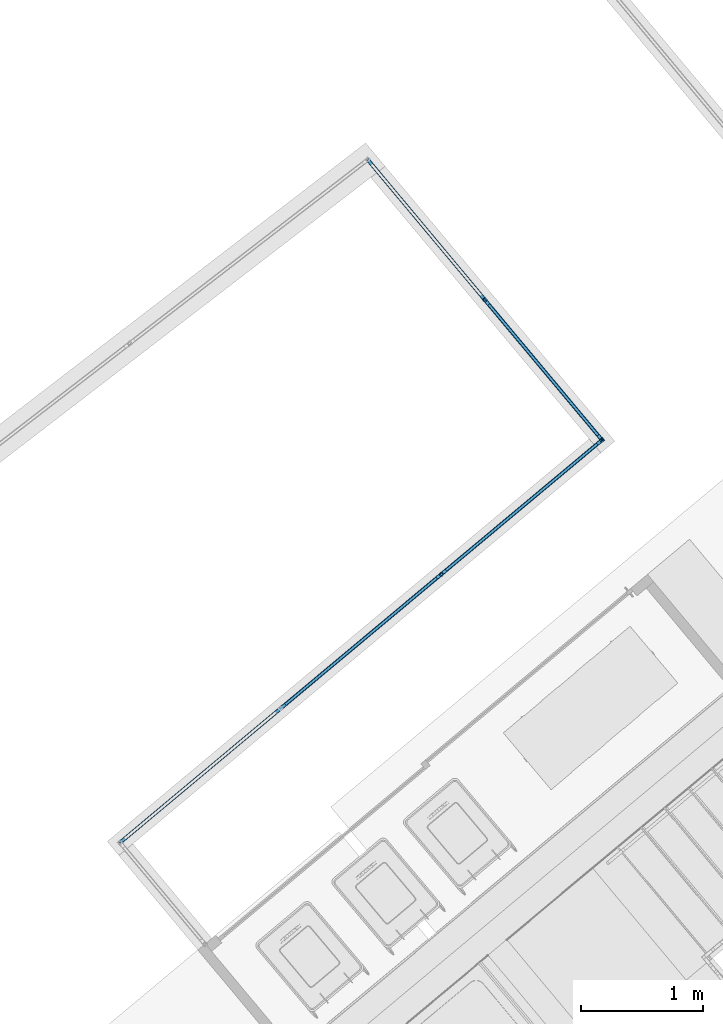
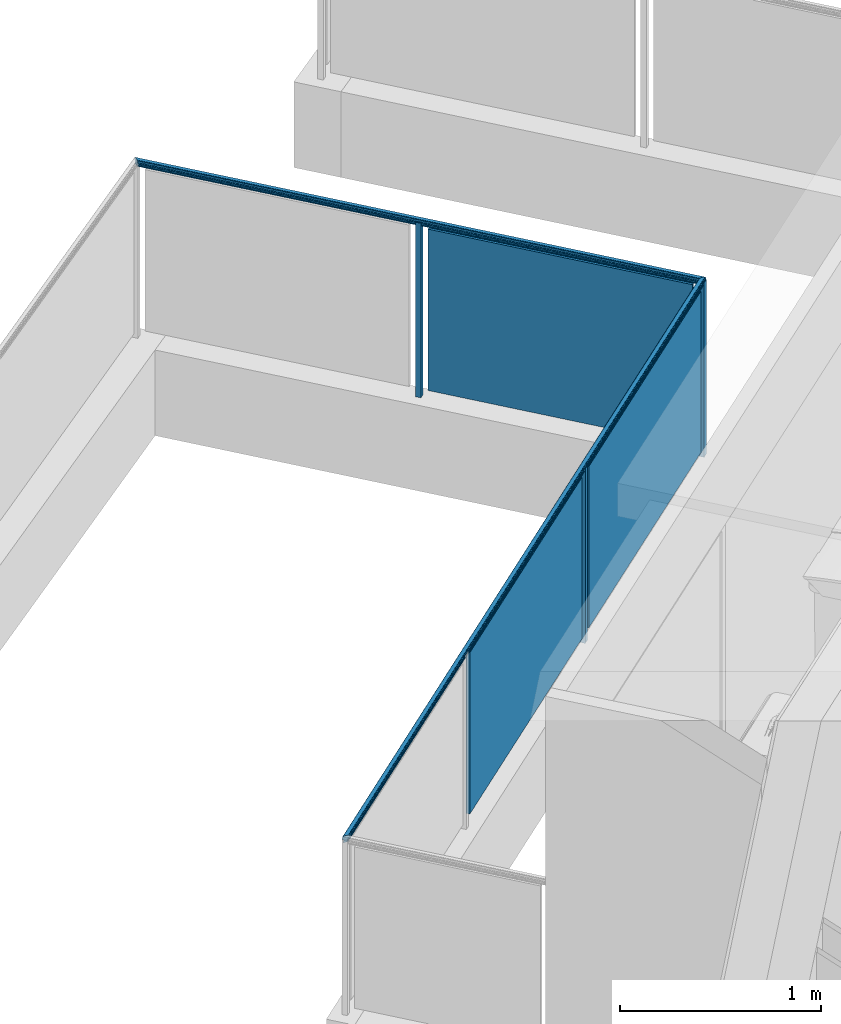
# One storey, part 36 of 67: 8 building element parts, 1 element without a shape of its own.
"""IFC4 building model written with IfcOpenShell, lengths in metres."""

from ifc_helpers import new_model, entity, si_unit, converted_unit, derived_unit, direction, frame, origin_with_axes, place, context, subcontext, project, spatial, polygons, material, type_object, element, aggregate, save


model = new_model("IFC4")

# Units and contexts
model_context = context("Model", 3, precision=1e-05, world=origin_with_axes(), true_north=direction((0.0, 1.0)))
body_context = subcontext(model_context, "Body", "Model", "MODEL_VIEW")
ifc_project = project(units=[si_unit("LENGTHUNIT", "METRE"), si_unit("AREAUNIT", "SQUARE_METRE"), si_unit("VOLUMEUNIT", "CUBIC_METRE"), converted_unit("PLANEANGLEUNIT", "DEGREE", entity("IfcPlaneAngleMeasure", 0.0174532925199), si_unit("PLANEANGLEUNIT", "RADIAN"), dimensions=[0, 0, 0, 0, 0, 0, 0]), converted_unit("TIMEUNIT", "Year", entity("IfcTimeMeasure", 31556926.0), si_unit("TIMEUNIT", "SECOND"), dimensions=[0, 0, 1, 0, 0, 0, 0]), si_unit("MASSUNIT", "GRAM", prefix="KILO"), si_unit("THERMODYNAMICTEMPERATUREUNIT", "DEGREE_CELSIUS"), si_unit("LUMINOUSINTENSITYUNIT", "LUMEN"), si_unit("ENERGYUNIT", "JOULE", prefix="MEGA"), derived_unit("THERMALCONDUCTANCEUNIT", [(si_unit("POWERUNIT", "WATT"), 1), (si_unit("LENGTHUNIT", "METRE"), -1), (si_unit("THERMODYNAMICTEMPERATUREUNIT", "KELVIN"), -1)]), derived_unit("SPECIFICHEATCAPACITYUNIT", [(si_unit("ENERGYUNIT", "JOULE"), 1), (si_unit("MASSUNIT", "GRAM", prefix="KILO"), -1), (si_unit("THERMODYNAMICTEMPERATUREUNIT", "KELVIN"), -1)]), derived_unit("MASSDENSITYUNIT", [(si_unit("MASSUNIT", "GRAM", prefix="KILO"), 1), (si_unit("VOLUMEUNIT", "CUBIC_METRE"), -1)])], contexts=[model_context])

# Site, building, storey
site_placement = place(None, frame((-0.00153261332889, -0.00661245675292, 0.0), z_axis=(0.0, 0.0, 1.0), x_axis=(1.0, 0.0, 0.0)))
site = spatial("IfcSite", under=ifc_project, at=site_placement, Name="Site", CompositionType="ELEMENT")
building_placement = place(site_placement, origin_with_axes())
building = spatial("IfcBuilding", under=site, at=building_placement, Name="Building", CompositionType="ELEMENT")
storey_placement = place(building_placement, frame((0.0, 0.0, -0.22), z_axis=(0.0, 0.0, 1.0), x_axis=(1.0, 0.0, 0.0)))
storey = spatial("IfcBuildingStorey", under=building, at=storey_placement, Name="EG", CompositionType="ELEMENT", Elevation=-0.22)

# Railing, building element parts
railing_type = type_object("IfcRailingType", Name="Geländerart", PredefinedType="NOTDEFINED")
railing_placement = place(storey_placement, frame((-6.36726458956, 22.4448248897, 0.523948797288), z_axis=(0.0, 0.0, 1.0), x_axis=(1.0, 0.0, 0.0)))
railing = element("IfcRailing", 1, at=railing_placement, inside=storey, type_object=railing_type, Name="Geländer - 001", PredefinedType="NOTDEFINED")
ifc_material_1 = material(Name="Aluminium")
building_element_part_1_placement = place(railing_placement, origin_with_axes())
building_element_part_1 = element("IfcBuildingElementPart", 2, at=building_element_part_1_placement, material=ifc_material_1, Name="Aluminium", PredefinedType="NOTDEFINED", context=body_context, shape_type="Tessellation", body=[
    polygons([(3.3393933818, 4.18604234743, 0.0), (3.32016217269, 4.20906756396, 0.0), (3.32016217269, 4.20906756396, 1.06), (3.3393933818, 4.18604234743, 1.06), (3.31636816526, 4.16681113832, 0.0), (3.29713695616, 4.18983635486, 0.0), (3.33235064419, 4.186674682, 0.0), (3.31952983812, 4.20202482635, 0.0), (3.30417969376, 4.18920402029, 0.0), (3.31700049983, 4.17385387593, 0.0), (3.29713695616, 4.18983635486, 1.06), (3.31636816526, 4.16681113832, 1.06), (3.33235064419, 4.186674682, 1.06), (3.31700049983, 4.17385387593, 1.06), (3.30417969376, 4.18920402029, 1.06), (3.31952983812, 4.20202482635, 1.06)], [[[1, 2, 3, 4]], [[1, 5, 6, 2], [7, 8, 9, 10]], [[2, 6, 11, 3]], [[4, 3, 11, 12], [13, 14, 15, 16]], [[5, 1, 4, 12]], [[6, 5, 12, 11]], [[8, 7, 13, 16]], [[9, 8, 16, 15]], [[10, 9, 15, 14]], [[7, 10, 14, 13]]], closed=True),
])
building_element_part_2_placement = place(railing_placement, origin_with_axes())
building_element_part_2 = element("IfcBuildingElementPart", 3, at=building_element_part_2_placement, material=ifc_material_1, Name="Aluminium", PredefinedType="NOTDEFINED", context=body_context, shape_type="Tessellation", body=[
    polygons([(-0.62523880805, 0.881025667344, 1.07636363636), (-0.624907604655, 0.880995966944, 1.07634109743), (3.33287390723, 4.18662932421, 1.07634109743), (3.33254270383, 4.18665902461, 1.07636363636), (-0.62523880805, 0.881025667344, 1.07818181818), (-0.62532585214, 0.881033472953, 1.07820551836), (-0.629970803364, 0.881450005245, 1.0792391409), (-0.634682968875, 0.881872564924, 1.07983921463), (-0.639426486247, 0.882297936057, 1.08000117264), (-0.639516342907, 0.882305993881, 1.08), (-0.639606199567, 0.882314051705, 1.08000117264), (-0.64434971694, 0.882739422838, 1.07983921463), (-0.649061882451, 0.883161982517, 1.0792391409), (-0.653706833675, 0.883578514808, 1.07820551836), (-0.653793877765, 0.883586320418, 1.07818181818), (-0.653793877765, 0.883586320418, 1.07636363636), (-0.65412508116, 0.883616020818, 1.07634109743), (-0.655351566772, 0.883726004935, 1.0761115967), (-0.656521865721, 0.883830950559, 1.07565956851), (-0.657600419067, 0.883927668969, 1.07499874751), (-0.658554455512, 0.884013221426, 1.0741492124), (-0.659354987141, 0.88408500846, 1.07313677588), (-0.659977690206, 0.88414084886, 1.07199220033), (-0.660403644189, 0.884179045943, 1.07075026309), (-0.660619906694, 0.884198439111, 1.06944869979), (-0.660619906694, 0.884198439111, 1.06812705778), (-0.660403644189, 0.884179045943, 1.06682549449), (-0.659977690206, 0.88414084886, 1.06558355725), (-0.659354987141, 0.88408500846, 1.06443898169), (-0.658554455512, 0.884013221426, 1.06342654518), (-0.657600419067, 0.883927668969, 1.06257701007), (-0.656521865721, 0.883830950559, 1.06191618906), (-0.655351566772, 0.883726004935, 1.06146416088), (-0.65412508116, 0.883616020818, 1.06123466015), (-0.653793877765, 0.883586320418, 1.06121212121), (-0.653793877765, 0.883586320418, 1.05818181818), (-0.653569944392, 0.883566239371, 1.05810011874), (-0.652526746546, 0.883472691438, 1.05758389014), (-0.651583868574, 0.883388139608, 1.05688326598), (-0.650769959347, 0.883315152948, 1.05601953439), (-0.650109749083, 0.88325594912, 1.05501893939), (-0.649623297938, 0.883212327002, 1.05391188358), (-0.649325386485, 0.883185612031, 1.05273200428), (-0.649225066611, 0.883176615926, 1.05151515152), (-0.649325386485, 0.883185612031, 1.05029829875), (-0.649623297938, 0.883212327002, 1.04911841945), (-0.650109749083, 0.88325594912, 1.04801136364), (-0.650769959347, 0.883315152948, 1.04701076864), (-0.651583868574, 0.883388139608, 1.04614703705), (-0.652526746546, 0.883472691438, 1.04544641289), (-0.653569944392, 0.883566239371, 1.04493018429), (-0.653793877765, 0.883586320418, 1.04484848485), (-0.653793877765, 0.883586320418, 1.04), (-0.62523880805, 0.881025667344, 1.04), (-0.62523880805, 0.881025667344, 1.04484848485), (-0.625462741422, 0.881045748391, 1.04493018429), (-0.626505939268, 0.881139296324, 1.04544641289), (-0.62744881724, 0.881223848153, 1.04614703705), (-0.628262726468, 0.881296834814, 1.04701076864), (-0.628922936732, 0.881356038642, 1.04801136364), (-0.629409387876, 0.88139966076, 1.04911841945), (-0.62970729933, 0.881426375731, 1.05029829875), (-0.629807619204, 0.881435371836, 1.05151515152), (-0.62970729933, 0.881426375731, 1.05273200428), (-0.629409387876, 0.88139966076, 1.05391188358), (-0.628922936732, 0.881356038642, 1.05501893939), (-0.628262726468, 0.881296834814, 1.05601953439), (-0.62744881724, 0.881223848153, 1.05688326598), (-0.626505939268, 0.881139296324, 1.05758389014), (-0.625462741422, 0.881045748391, 1.05810011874), (-0.62523880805, 0.881025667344, 1.05818181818), (-0.62523880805, 0.881025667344, 1.06121212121), (-0.624907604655, 0.880995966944, 1.06123466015), (-0.623681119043, 0.880885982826, 1.06146416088), (-0.622510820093, 0.880781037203, 1.06191618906), (-0.621432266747, 0.880684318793, 1.06257701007), (-0.620478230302, 0.880598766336, 1.06342654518), (-0.619677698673, 0.880526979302, 1.06443898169), (-0.619054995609, 0.880471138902, 1.06558355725), (-0.618629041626, 0.880432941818, 1.06682549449), (-0.618412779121, 0.880413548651, 1.06812705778), (-0.618412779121, 0.880413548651, 1.06944869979), (-0.618629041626, 0.880432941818, 1.07075026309), (-0.619054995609, 0.880471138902, 1.07199220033), (-0.619677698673, 0.880526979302, 1.07313677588), (-0.620478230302, 0.880598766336, 1.0741492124), (-0.621432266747, 0.880684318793, 1.07499874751), (-0.622510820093, 0.880781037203, 1.07565956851), (-0.623681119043, 0.880885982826, 1.0761115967), (3.33410039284, 4.18651934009, 1.0761115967), (3.33527069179, 4.18641439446, 1.07565956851), (3.33634924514, 4.18631767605, 1.07499874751), (3.33730328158, 4.1862321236, 1.0741492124), (3.33810381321, 4.18616033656, 1.07313677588), (3.33872651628, 4.18610449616, 1.07199220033), (3.33915247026, 4.18606629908, 1.07075026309), (3.33936873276, 4.18604690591, 1.06944869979), (3.33936873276, 4.18604690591, 1.06812705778), (3.33915247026, 4.18606629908, 1.06682549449), (3.33872651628, 4.18610449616, 1.06558355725), (3.33810381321, 4.18616033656, 1.06443898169), (3.33730328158, 4.1862321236, 1.06342654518), (3.33634924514, 4.18631767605, 1.06257701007), (3.33527069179, 4.18641439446, 1.06191618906), (3.33410039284, 4.18651934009, 1.06146416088), (3.33287390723, 4.18662932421, 1.06123466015), (3.33254270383, 4.18665902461, 1.06121212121), (3.33254270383, 4.18665902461, 1.05818181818), (3.33231877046, 4.18667910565, 1.05810011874), (3.33127557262, 4.18677265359, 1.05758389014), (3.33033269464, 4.18685720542, 1.05688326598), (3.32951878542, 4.18693019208, 1.05601953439), (3.32885857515, 4.1869893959, 1.05501893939), (3.32837212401, 4.18703301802, 1.05391188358), (3.32807421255, 4.18705973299, 1.05273200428), (3.32797389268, 4.1870687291, 1.05151515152), (3.32807421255, 4.18705973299, 1.05029829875), (3.32837212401, 4.18703301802, 1.04911841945), (3.32885857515, 4.1869893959, 1.04801136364), (3.32951878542, 4.18693019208, 1.04701076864), (3.33033269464, 4.18685720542, 1.04614703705), (3.33127557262, 4.18677265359, 1.04544641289), (3.33231877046, 4.18667910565, 1.04493018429), (3.33254270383, 4.18665902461, 1.04484848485), (3.33254270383, 4.18665902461, 1.04), (3.30398763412, 4.18921967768, 1.04), (3.30398763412, 4.18921967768, 1.04484848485), (3.30421156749, 4.18919959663, 1.04493018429), (3.30525476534, 4.1891060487, 1.04544641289), (3.30619764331, 4.18902149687, 1.04614703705), (3.30701155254, 4.18894851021, 1.04701076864), (3.3076717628, 4.18888930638, 1.04801136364), (3.30815821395, 4.18884568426, 1.04911841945), (3.3084561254, 4.18881896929, 1.05029829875), (3.30855644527, 4.18880997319, 1.05151515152), (3.3084561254, 4.18881896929, 1.05273200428), (3.30815821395, 4.18884568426, 1.05391188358), (3.3076717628, 4.18888930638, 1.05501893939), (3.30701155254, 4.18894851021, 1.05601953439), (3.30619764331, 4.18902149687, 1.05688326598), (3.30525476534, 4.1891060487, 1.05758389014), (3.30421156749, 4.18919959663, 1.05810011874), (3.30398763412, 4.18921967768, 1.05818181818), (3.30398763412, 4.18921967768, 1.06121212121), (3.30365643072, 4.18924937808, 1.06123466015), (3.30242994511, 4.1893593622, 1.06146416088), (3.30125964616, 4.18946430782, 1.06191618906), (3.30018109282, 4.18956102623, 1.06257701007), (3.29922705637, 4.18964657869, 1.06342654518), (3.29842652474, 4.18971836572, 1.06443898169), (3.29780382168, 4.18977420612, 1.06558355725), (3.2973778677, 4.1898124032, 1.06682549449), (3.29716160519, 4.18983179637, 1.06812705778), (3.29716160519, 4.18983179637, 1.06944869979), (3.2973778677, 4.1898124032, 1.07075026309), (3.29780382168, 4.18977420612, 1.07199220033), (3.29842652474, 4.18971836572, 1.07313677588), (3.29922705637, 4.18964657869, 1.0741492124), (3.30018109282, 4.18956102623, 1.07499874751), (3.30125964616, 4.18946430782, 1.07565956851), (3.30242994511, 4.1893593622, 1.0761115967), (3.30365643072, 4.18924937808, 1.07634109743), (3.30398763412, 4.18921967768, 1.07636363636), (3.30398763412, 4.18921967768, 1.07818181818), (3.30407467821, 4.18921187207, 1.07820551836), (3.30871962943, 4.18879533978, 1.0792391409), (3.31343179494, 4.1883727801, 1.07983921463), (3.31817531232, 4.18794740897, 1.08000117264), (3.31826516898, 4.18793935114, 1.08), (3.31835502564, 4.18793129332, 1.08000117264), (3.32309854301, 4.18750592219, 1.07983921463), (3.32781070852, 4.18708336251, 1.0792391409), (3.33245565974, 4.18666683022, 1.07820551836), (3.33254270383, 4.18665902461, 1.07818181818)], [[[1, 2, 3, 4]], [[1, 5, 6, 7, 8, 9, 10, 11, 12, 13, 14, 15, 16, 17, 18, 19, 20, 21, 22, 23, 24, 25, 26, 27, 28, 29, 30, 31, 32, 33, 34, 35, 36, 37, 38, 39, 40, 41, 42, 43, 44, 45, 46, 47, 48, 49, 50, 51, 52, 53, 54, 55, 56, 57, 58, 59, 60, 61, 62, 63, 64, 65, 66, 67, 68, 69, 70, 71, 72, 73, 74, 75, 76, 77, 78, 79, 80, 81, 82, 83, 84, 85, 86, 87, 88, 89, 2]], [[2, 89, 90, 3]], [[4, 3, 90, 91, 92, 93, 94, 95, 96, 97, 98, 99, 100, 101, 102, 103, 104, 105, 106, 107, 108, 109, 110, 111, 112, 113, 114, 115, 116, 117, 118, 119, 120, 121, 122, 123, 124, 125, 126, 127, 128, 129, 130, 131, 132, 133, 134, 135, 136, 137, 138, 139, 140, 141, 142, 143, 144, 145, 146, 147, 148, 149, 150, 151, 152, 153, 154, 155, 156, 157, 158, 159, 160, 161, 162, 163, 164, 165, 166, 167, 168, 169, 170, 171, 172, 173, 174]], [[5, 1, 4, 174]], [[6, 5, 174, 173]], [[7, 6, 173, 172]], [[8, 7, 172, 171]], [[9, 8, 171, 170]], [[10, 9, 170, 169]], [[11, 10, 169, 168]], [[12, 11, 168, 167]], [[13, 12, 167, 166]], [[14, 13, 166, 165]], [[15, 14, 165, 164]], [[16, 15, 164, 163]], [[17, 16, 163, 162]], [[18, 17, 162, 161]], [[19, 18, 161, 160]], [[20, 19, 160, 159]], [[21, 20, 159, 158]], [[22, 21, 158, 157]], [[23, 22, 157, 156]], [[24, 23, 156, 155]], [[25, 24, 155, 154]], [[26, 25, 154, 153]], [[27, 26, 153, 152]], [[28, 27, 152, 151]], [[29, 28, 151, 150]], [[30, 29, 150, 149]], [[31, 30, 149, 148]], [[32, 31, 148, 147]], [[33, 32, 147, 146]], [[34, 33, 146, 145]], [[35, 34, 145, 144]], [[36, 35, 144, 143]], [[37, 36, 143, 142]], [[38, 37, 142, 141]], [[39, 38, 141, 140]], [[40, 39, 140, 139]], [[41, 40, 139, 138]], [[42, 41, 138, 137]], [[43, 42, 137, 136]], [[44, 43, 136, 135]], [[45, 44, 135, 134]], [[46, 45, 134, 133]], [[47, 46, 133, 132]], [[48, 47, 132, 131]], [[49, 48, 131, 130]], [[50, 49, 130, 129]], [[51, 50, 129, 128]], [[52, 51, 128, 127]], [[53, 52, 127, 126]], [[54, 53, 126, 125]], [[55, 54, 125, 124]], [[56, 55, 124, 123]], [[57, 56, 123, 122]], [[58, 57, 122, 121]], [[59, 58, 121, 120]], [[60, 59, 120, 119]], [[61, 60, 119, 118]], [[62, 61, 118, 117]], [[63, 62, 117, 116]], [[64, 63, 116, 115]], [[65, 64, 115, 114]], [[66, 65, 114, 113]], [[67, 66, 113, 112]], [[68, 67, 112, 111]], [[69, 68, 111, 110]], [[70, 69, 110, 109]], [[71, 70, 109, 108]], [[72, 71, 108, 107]], [[73, 72, 107, 106]], [[74, 73, 106, 105]], [[75, 74, 105, 104]], [[76, 75, 104, 103]], [[77, 76, 103, 102]], [[78, 77, 102, 101]], [[79, 78, 101, 100]], [[80, 79, 100, 99]], [[81, 80, 99, 98]], [[82, 81, 98, 97]], [[83, 82, 97, 96]], [[84, 83, 96, 95]], [[85, 84, 95, 94]], [[86, 85, 94, 93]], [[87, 86, 93, 92]], [[88, 87, 92, 91]], [[89, 88, 91, 90]]], closed=True),
])
ifc_material_2 = material(Name="Zaun")
building_element_part_3_placement = place(railing_placement, origin_with_axes())
building_element_part_3 = element("IfcBuildingElementPart", 4, at=building_element_part_3_placement, material=ifc_material_2, Name="Zaun", PredefinedType="NOTDEFINED", context=body_context, shape_type="Tessellation", body=[
    polygons([(1.95421890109, 3.0616846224, 0.05), (0.711709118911, 2.02391086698, 0.05), (0.711709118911, 2.02391086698, 1.03), (1.95421890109, 3.0616846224, 1.03), (0.724529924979, 2.00856072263, 0.05), (1.96703970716, 3.04633447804, 0.05), (0.724529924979, 2.00856072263, 1.03), (1.96703970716, 3.04633447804, 1.03)], [[[1, 2, 3, 4]], [[5, 2, 1, 6]], [[7, 3, 2, 5]], [[4, 3, 7, 8]], [[1, 4, 8, 6]], [[7, 5, 6, 8]]], closed=True),
])
building_element_part_4_placement = place(railing_placement, origin_with_axes())
building_element_part_4 = element("IfcBuildingElementPart", 5, at=building_element_part_4_placement, material=ifc_material_1, Name="Aluminium", PredefinedType="NOTDEFINED", context=body_context, shape_type="Tessellation", body=[
    polygons([(2.02013287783, 3.08416456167, 0.0), (2.00090166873, 3.10718977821, 0.0), (2.00090166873, 3.10718977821, 1.06), (2.02013287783, 3.08416456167, 1.06), (1.9971076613, 3.06493335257, 0.0), (1.9778764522, 3.08795856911, 0.0), (2.01309014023, 3.08479689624, 0.0), (2.00026933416, 3.1001470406, 0.0), (1.9849191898, 3.08732623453, 0.0), (1.99773999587, 3.07197609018, 0.0), (1.9778764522, 3.08795856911, 1.06), (1.9971076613, 3.06493335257, 1.06), (2.01309014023, 3.08479689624, 1.06), (1.99773999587, 3.07197609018, 1.06), (1.9849191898, 3.08732623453, 1.06), (2.00026933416, 3.1001470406, 1.06)], [[[1, 2, 3, 4]], [[1, 5, 6, 2], [7, 8, 9, 10]], [[2, 6, 11, 3]], [[4, 3, 11, 12], [13, 14, 15, 16]], [[5, 1, 4, 12]], [[6, 5, 12, 11]], [[8, 7, 13, 16]], [[9, 8, 16, 15]], [[10, 9, 15, 14]], [[7, 10, 14, 13]]], closed=True),
])
building_element_part_5_placement = place(railing_placement, origin_with_axes())
building_element_part_5 = element("IfcBuildingElementPart", 6, at=building_element_part_5_placement, material=ifc_material_2, Name="Zaun", PredefinedType="NOTDEFINED", context=body_context, shape_type="Tessellation", body=[
    polygons([(3.27347940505, 4.16356240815, 0.05), (2.03096962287, 3.12578865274, 0.05), (2.03096962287, 3.12578865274, 1.03), (3.27347940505, 4.16356240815, 1.03), (2.04379042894, 3.11043850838, 0.05), (3.28630021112, 4.14821226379, 0.05), (2.04379042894, 3.11043850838, 1.03), (3.28630021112, 4.14821226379, 1.03)], [[[1, 2, 3, 4]], [[5, 2, 1, 6]], [[7, 3, 2, 5]], [[4, 3, 7, 8]], [[1, 4, 8, 6]], [[7, 5, 6, 8]]], closed=True),
])
building_element_part_6_placement = place(railing_placement, origin_with_axes())
building_element_part_6 = element("IfcBuildingElementPart", 7, at=building_element_part_6_placement, material=ifc_material_1, Name="Aluminium", PredefinedType="NOTDEFINED", context=body_context, shape_type="Tessellation", body=[
    polygons([(3.33254270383, 4.18665902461, 1.07636363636), (3.33287390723, 4.18662932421, 1.07634109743), (1.39605547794, 6.50451182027, 1.07634109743), (1.39602010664, 6.50418748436, 1.07636363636), (3.33254270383, 4.18665902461, 1.07818181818), (3.33245565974, 4.18666683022, 1.07820551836), (3.32781070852, 4.18708336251, 1.0792391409), (3.32309854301, 4.18750592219, 1.07983921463), (3.31835502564, 4.18793129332, 1.08000117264), (3.31826516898, 4.18793935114, 1.08), (3.31817531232, 4.18794740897, 1.08000117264), (3.31343179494, 4.1883727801, 1.07983921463), (3.30871962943, 4.18879533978, 1.0792391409), (3.30407467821, 4.18921187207, 1.07820551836), (3.30398763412, 4.18921967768, 1.07818181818), (3.30398763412, 4.18921967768, 1.07636363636), (3.30365643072, 4.18924937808, 1.07634109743), (3.30242994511, 4.1893593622, 1.0761115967), (3.30125964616, 4.18946430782, 1.07565956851), (3.30018109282, 4.18956102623, 1.07499874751), (3.29922705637, 4.18964657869, 1.0741492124), (3.29842652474, 4.18971836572, 1.07313677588), (3.29780382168, 4.18977420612, 1.07199220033), (3.2973778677, 4.1898124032, 1.07075026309), (3.29716160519, 4.18983179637, 1.06944869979), (3.29716160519, 4.18983179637, 1.06812705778), (3.2973778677, 4.1898124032, 1.06682549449), (3.29780382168, 4.18977420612, 1.06558355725), (3.29842652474, 4.18971836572, 1.06443898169), (3.29922705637, 4.18964657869, 1.06342654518), (3.30018109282, 4.18956102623, 1.06257701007), (3.30125964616, 4.18946430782, 1.06191618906), (3.30242994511, 4.1893593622, 1.06146416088), (3.30365643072, 4.18924937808, 1.06123466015), (3.30398763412, 4.18921967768, 1.06121212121), (3.30398763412, 4.18921967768, 1.05818181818), (3.30421156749, 4.18919959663, 1.05810011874), (3.30525476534, 4.1891060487, 1.05758389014), (3.30619764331, 4.18902149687, 1.05688326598), (3.30701155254, 4.18894851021, 1.05601953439), (3.3076717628, 4.18888930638, 1.05501893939), (3.30815821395, 4.18884568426, 1.05391188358), (3.3084561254, 4.18881896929, 1.05273200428), (3.30855644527, 4.18880997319, 1.05151515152), (3.3084561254, 4.18881896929, 1.05029829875), (3.30815821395, 4.18884568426, 1.04911841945), (3.3076717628, 4.18888930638, 1.04801136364), (3.30701155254, 4.18894851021, 1.04701076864), (3.30619764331, 4.18902149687, 1.04614703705), (3.30525476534, 4.1891060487, 1.04544641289), (3.30421156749, 4.18919959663, 1.04493018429), (3.30398763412, 4.18921967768, 1.04484848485), (3.30398763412, 4.18921967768, 1.04), (3.33254270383, 4.18665902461, 1.04), (3.33254270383, 4.18665902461, 1.04484848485), (3.33231877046, 4.18667910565, 1.04493018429), (3.33127557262, 4.18677265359, 1.04544641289), (3.33033269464, 4.18685720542, 1.04614703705), (3.32951878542, 4.18693019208, 1.04701076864), (3.32885857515, 4.1869893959, 1.04801136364), (3.32837212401, 4.18703301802, 1.04911841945), (3.32807421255, 4.18705973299, 1.05029829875), (3.32797389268, 4.1870687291, 1.05151515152), (3.32807421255, 4.18705973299, 1.05273200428), (3.32837212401, 4.18703301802, 1.05391188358), (3.32885857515, 4.1869893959, 1.05501893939), (3.32951878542, 4.18693019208, 1.05601953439), (3.33033269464, 4.18685720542, 1.05688326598), (3.33127557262, 4.18677265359, 1.05758389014), (3.33231877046, 4.18667910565, 1.05810011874), (3.33254270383, 4.18665902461, 1.05818181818), (3.33254270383, 4.18665902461, 1.06121212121), (3.33287390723, 4.18662932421, 1.06123466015), (3.33410039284, 4.18651934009, 1.06146416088), (3.33527069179, 4.18641439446, 1.06191618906), (3.33634924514, 4.18631767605, 1.06257701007), (3.33730328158, 4.1862321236, 1.06342654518), (3.33810381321, 4.18616033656, 1.06443898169), (3.33872651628, 4.18610449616, 1.06558355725), (3.33915247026, 4.18606629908, 1.06682549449), (3.33936873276, 4.18604690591, 1.06812705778), (3.33936873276, 4.18604690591, 1.06944869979), (3.33915247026, 4.18606629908, 1.07075026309), (3.33872651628, 4.18610449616, 1.07199220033), (3.33810381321, 4.18616033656, 1.07313677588), (3.33730328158, 4.1862321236, 1.0741492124), (3.33634924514, 4.18631767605, 1.07499874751), (3.33527069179, 4.18641439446, 1.07565956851), (3.33410039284, 4.18651934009, 1.0761115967), (1.39618646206, 6.50571287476, 1.0761115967), (1.39631144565, 6.50685890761, 1.07565956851), (1.39642663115, 6.5079150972, 1.07499874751), (1.39652851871, 6.50884935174, 1.0741492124), (1.39661401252, 6.50963328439, 1.07313677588), (1.3966805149, 6.51024307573, 1.07199220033), (1.39672600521, 6.51066019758, 1.07075026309), (1.39674910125, 6.51087197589, 1.06944869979), (1.39674910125, 6.51087197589, 1.06812705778), (1.39672600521, 6.51066019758, 1.06682549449), (1.3966805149, 6.51024307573, 1.06558355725), (1.39661401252, 6.50963328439, 1.06443898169), (1.39652851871, 6.50884935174, 1.06342654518), (1.39642663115, 6.5079150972, 1.06257701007), (1.39631144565, 6.50685890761, 1.06191618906), (1.39618646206, 6.50571287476, 1.06146416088), (1.39605547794, 6.50451182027, 1.06123466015), (1.39602010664, 6.50418748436, 1.06121212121), (1.39602010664, 6.50418748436, 1.05818181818), (1.39599619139, 6.50396819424, 1.05810011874), (1.39588478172, 6.50294662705, 1.05758389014), (1.39578408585, 6.50202329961, 1.05688326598), (1.39569716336, 6.50122626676, 1.05601953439), (1.39562665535, 6.50057974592, 1.05501893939), (1.39557470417, 6.50010338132, 1.05391188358), (1.39554288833, 6.49981164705, 1.05273200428), (1.39553217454, 6.4997134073, 1.05151515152), (1.39554288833, 6.49981164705, 1.05029829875), (1.39557470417, 6.50010338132, 1.04911841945), (1.39562665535, 6.50057974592, 1.04801136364), (1.39569716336, 6.50122626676, 1.04701076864), (1.39578408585, 6.50202329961, 1.04614703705), (1.39588478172, 6.50294662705, 1.04544641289), (1.39599619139, 6.50396819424, 1.04493018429), (1.39602010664, 6.50418748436, 1.04484848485), (1.39602010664, 6.50418748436, 1.04), (1.39297053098, 6.47622450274, 1.04), (1.39297053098, 6.47622450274, 1.04484848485), (1.39299444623, 6.47644379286, 1.04493018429), (1.3931058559, 6.47746536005, 1.04544641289), (1.39320655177, 6.47838868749, 1.04614703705), (1.39329347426, 6.47918572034, 1.04701076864), (1.39336398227, 6.47983224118, 1.04801136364), (1.39341593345, 6.48030860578, 1.04911841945), (1.39344774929, 6.48060034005, 1.05029829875), (1.39345846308, 6.4806985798, 1.05151515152), (1.39344774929, 6.48060034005, 1.05273200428), (1.39341593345, 6.48030860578, 1.05391188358), (1.39336398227, 6.47983224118, 1.05501893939), (1.39329347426, 6.47918572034, 1.05601953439), (1.39320655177, 6.47838868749, 1.05688326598), (1.3931058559, 6.47746536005, 1.05758389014), (1.39299444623, 6.47644379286, 1.05810011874), (1.39297053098, 6.47622450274, 1.05818181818), (1.39297053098, 6.47622450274, 1.06121212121), (1.39293515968, 6.47590016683, 1.06123466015), (1.39280417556, 6.47469911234, 1.06146416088), (1.39267919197, 6.47355307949, 1.06191618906), (1.39256400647, 6.4724968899, 1.06257701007), (1.39246211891, 6.47156263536, 1.06342654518), (1.3923766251, 6.47077870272, 1.06443898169), (1.39231012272, 6.47016891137, 1.06558355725), (1.39226463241, 6.46975178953, 1.06682549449), (1.39224153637, 6.46954001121, 1.06812705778), (1.39224153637, 6.46954001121, 1.06944869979), (1.39226463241, 6.46975178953, 1.07075026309), (1.39231012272, 6.47016891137, 1.07199220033), (1.3923766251, 6.47077870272, 1.07313677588), (1.39246211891, 6.47156263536, 1.0741492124), (1.39256400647, 6.4724968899, 1.07499874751), (1.39267919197, 6.47355307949, 1.07565956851), (1.39280417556, 6.47469911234, 1.0761115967), (1.39293515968, 6.47590016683, 1.07634109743), (1.39297053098, 6.47622450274, 1.07636363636), (1.39297053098, 6.47622450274, 1.07818181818), (1.39297982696, 6.47630974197, 1.07820551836), (1.39347589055, 6.48085838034, 1.0792391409), (1.39397913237, 6.48547283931, 1.07983921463), (1.39448572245, 6.49011800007, 1.08000117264), (1.39449531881, 6.49020599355, 1.08), (1.39450491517, 6.49029398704, 1.08000117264), (1.39501150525, 6.49493914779, 1.07983921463), (1.39551474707, 6.49955360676, 1.0792391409), (1.39601081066, 6.50410224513, 1.07820551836), (1.39602010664, 6.50418748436, 1.07818181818)], [[[1, 2, 3, 4]], [[1, 5, 6, 7, 8, 9, 10, 11, 12, 13, 14, 15, 16, 17, 18, 19, 20, 21, 22, 23, 24, 25, 26, 27, 28, 29, 30, 31, 32, 33, 34, 35, 36, 37, 38, 39, 40, 41, 42, 43, 44, 45, 46, 47, 48, 49, 50, 51, 52, 53, 54, 55, 56, 57, 58, 59, 60, 61, 62, 63, 64, 65, 66, 67, 68, 69, 70, 71, 72, 73, 74, 75, 76, 77, 78, 79, 80, 81, 82, 83, 84, 85, 86, 87, 88, 89, 2]], [[2, 89, 90, 3]], [[4, 3, 90, 91, 92, 93, 94, 95, 96, 97, 98, 99, 100, 101, 102, 103, 104, 105, 106, 107, 108, 109, 110, 111, 112, 113, 114, 115, 116, 117, 118, 119, 120, 121, 122, 123, 124, 125, 126, 127, 128, 129, 130, 131, 132, 133, 134, 135, 136, 137, 138, 139, 140, 141, 142, 143, 144, 145, 146, 147, 148, 149, 150, 151, 152, 153, 154, 155, 156, 157, 158, 159, 160, 161, 162, 163, 164, 165, 166, 167, 168, 169, 170, 171, 172, 173, 174]], [[5, 1, 4, 174]], [[6, 5, 174, 173]], [[7, 6, 173, 172]], [[8, 7, 172, 171]], [[9, 8, 171, 170]], [[10, 9, 170, 169]], [[11, 10, 169, 168]], [[12, 11, 168, 167]], [[13, 12, 167, 166]], [[14, 13, 166, 165]], [[15, 14, 165, 164]], [[16, 15, 164, 163]], [[17, 16, 163, 162]], [[18, 17, 162, 161]], [[19, 18, 161, 160]], [[20, 19, 160, 159]], [[21, 20, 159, 158]], [[22, 21, 158, 157]], [[23, 22, 157, 156]], [[24, 23, 156, 155]], [[25, 24, 155, 154]], [[26, 25, 154, 153]], [[27, 26, 153, 152]], [[28, 27, 152, 151]], [[29, 28, 151, 150]], [[30, 29, 150, 149]], [[31, 30, 149, 148]], [[32, 31, 148, 147]], [[33, 32, 147, 146]], [[34, 33, 146, 145]], [[35, 34, 145, 144]], [[36, 35, 144, 143]], [[37, 36, 143, 142]], [[38, 37, 142, 141]], [[39, 38, 141, 140]], [[40, 39, 140, 139]], [[41, 40, 139, 138]], [[42, 41, 138, 137]], [[43, 42, 137, 136]], [[44, 43, 136, 135]], [[45, 44, 135, 134]], [[46, 45, 134, 133]], [[47, 46, 133, 132]], [[48, 47, 132, 131]], [[49, 48, 131, 130]], [[50, 49, 130, 129]], [[51, 50, 129, 128]], [[52, 51, 128, 127]], [[53, 52, 127, 126]], [[54, 53, 126, 125]], [[55, 54, 125, 124]], [[56, 55, 124, 123]], [[57, 56, 123, 122]], [[58, 57, 122, 121]], [[59, 58, 121, 120]], [[60, 59, 120, 119]], [[61, 60, 119, 118]], [[62, 61, 118, 117]], [[63, 62, 117, 116]], [[64, 63, 116, 115]], [[65, 64, 115, 114]], [[66, 65, 114, 113]], [[67, 66, 113, 112]], [[68, 67, 112, 111]], [[69, 68, 111, 110]], [[70, 69, 110, 109]], [[71, 70, 109, 108]], [[72, 71, 108, 107]], [[73, 72, 107, 106]], [[74, 73, 106, 105]], [[75, 74, 105, 104]], [[76, 75, 104, 103]], [[77, 76, 103, 102]], [[78, 77, 102, 101]], [[79, 78, 101, 100]], [[80, 79, 100, 99]], [[81, 80, 99, 98]], [[82, 81, 98, 97]], [[83, 82, 97, 96]], [[84, 83, 96, 95]], [[85, 84, 95, 94]], [[86, 85, 94, 93]], [[87, 86, 93, 92]], [[88, 87, 92, 91]], [[89, 88, 91, 90]]], closed=True),
])
building_element_part_7_placement = place(railing_placement, origin_with_axes())
building_element_part_7 = element("IfcBuildingElementPart", 8, at=building_element_part_7_placement, material=ifc_material_2, Name="Zaun", PredefinedType="NOTDEFINED", context=body_context, shape_type="Tessellation", body=[
    polygons([(2.3807670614, 5.29429228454, 0.05), (3.27853103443, 4.21989554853, 0.05), (3.27853103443, 4.21989554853, 1.03), (2.3807670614, 5.29429228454, 1.03), (3.29387835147, 4.23271973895, 0.05), (2.39611437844, 5.30711647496, 0.05), (3.29387835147, 4.23271973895, 1.03), (2.39611437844, 5.30711647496, 1.03)], [[[1, 2, 3, 4]], [[5, 2, 1, 6]], [[7, 3, 2, 5]], [[4, 3, 7, 8]], [[1, 4, 8, 6]], [[7, 5, 6, 8]]], closed=True),
])
building_element_part_8_placement = place(railing_placement, origin_with_axes())
building_element_part_8 = element("IfcBuildingElementPart", 9, at=building_element_part_8_placement, material=ifc_material_1, Name="Aluminium", PredefinedType="NOTDEFINED", context=body_context, shape_type="Tessellation", body=[
    polygons([(2.35827258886, 5.36020130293, 0.0), (2.33525161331, 5.34096501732, 0.0), (2.33525161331, 5.34096501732, 1.06), (2.35827258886, 5.36020130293, 1.06), (2.37750887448, 5.33718032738, 0.0), (2.35448789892, 5.31794404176, 0.0), (2.35764180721, 5.35315842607, 0.0), (2.34229449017, 5.34033423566, 0.0), (2.35511868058, 5.32498691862, 0.0), (2.37046599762, 5.33781110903, 0.0), (2.35448789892, 5.31794404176, 1.06), (2.37750887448, 5.33718032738, 1.06), (2.35764180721, 5.35315842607, 1.06), (2.37046599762, 5.33781110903, 1.06), (2.35511868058, 5.32498691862, 1.06), (2.34229449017, 5.34033423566, 1.06)], [[[1, 2, 3, 4]], [[1, 5, 6, 2], [7, 8, 9, 10]], [[2, 6, 11, 3]], [[4, 3, 11, 12], [13, 14, 15, 16]], [[5, 1, 4, 12]], [[6, 5, 12, 11]], [[8, 7, 13, 16]], [[9, 8, 16, 15]], [[10, 9, 15, 14]], [[7, 10, 14, 13]]], closed=True),
])
aggregate(railing, [building_element_part_1, building_element_part_2, building_element_part_3, building_element_part_4, building_element_part_5, building_element_part_6, building_element_part_7, building_element_part_8])

save(model, "model.ifc")
